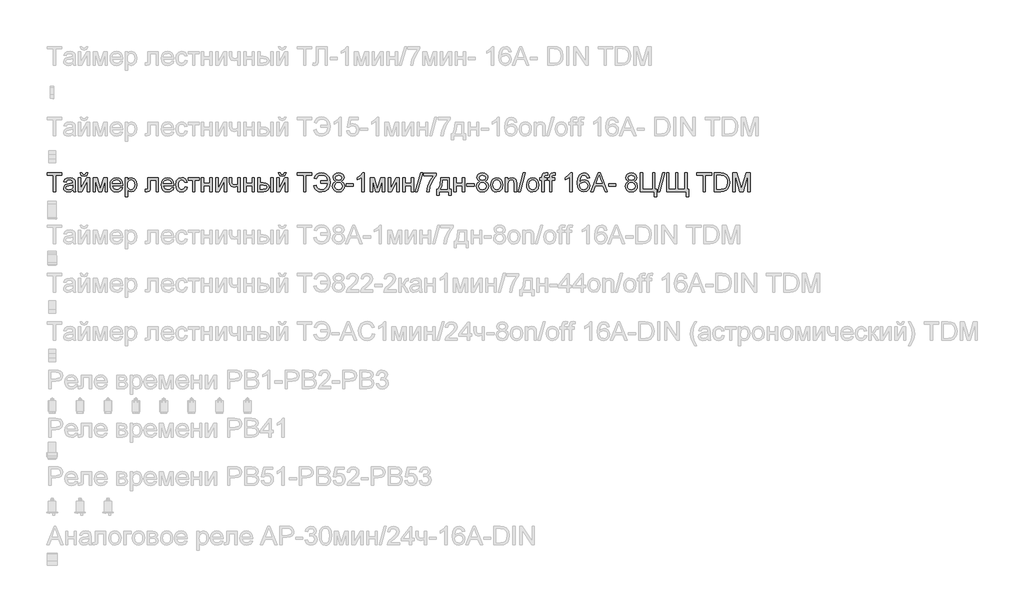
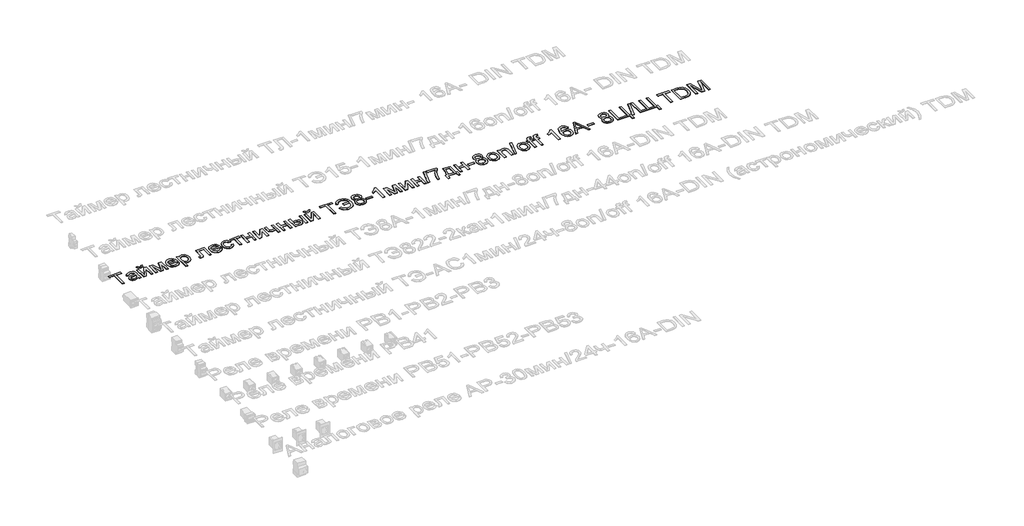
# One storey, part 29 of 34: 1 proxy.
"""IFC4 building model written with IfcOpenShell, lengths in millimetres."""

from ifc_helpers import new_model, si_unit, frame, origin, place, context, project, spatial, polyline, outline, extrude, element, save

model = new_model("IFC4")

# Units and contexts
model_context = context("Model", 3, world=origin())
ifc_project = project(units=[si_unit("LENGTHUNIT", "METRE", prefix="MILLI")], contexts=[model_context])

# Site, building, storey
site = spatial("IfcSite", under=ifc_project)
building = spatial("IfcBuilding", under=site)
storey = spatial("IfcBuildingStorey", under=building, Name="Этаж 01", Elevation=0.0)

# Proxy
placement = place(None, origin())
element("IfcBuildingElementProxy", 1, Name="Надпись на модели 1", ObjectType="Надпись на модели 1", at=placement, inside=storey, context=model_context, shape_type="SweptSolid", body=[
    extrude(outline(polyline([(-19013.8985135, 17856.235284), (-19013.8985135, 17944.1345554), (-19046.8607403, 17944.1345554), (-19046.8607403, 17956.6915941), (-18968.379248, 17956.6915941), (-18968.379248, 17944.1345554), (-19001.3414748, 17944.1345554), (-19001.3414748, 17856.235284), (-19013.8985135, 17856.235284)])), frame((0.0, 0.0, 40.0), z_axis=(0.0, 0.0, 1.0), x_axis=(1.0, 0.0, 0.0)), (0.0, 0.0, 1.0), 2.0),
    extrude(outline(polyline([(-18908.7333139, 17865.6530631), (-18920.9102079, 17857.1427262), (-18934.3624262, 17854.6656541), (-18944.8562601, 17856.1555762), (-18952.5971104, 17860.6253425), (-18957.3703793, 17867.4127653), (-18958.9614689, 17875.8556571), (-18956.5579732, 17885.7884709), (-18950.2426656, 17892.998958), (-18941.450286, 17897.1192364), (-18930.5855044, 17899.0076973), (-18908.8068903, 17903.3241794), (-18908.7333139, 17906.1200825), (-18912.1914046, 17915.3907088), (-18926.0728186, 17919.0204778), (-18938.7770101, 17916.6047194), (-18944.8348003, 17908.0330689), (-18957.3918391, 17909.6026988), (-18951.9594483, 17921.8654319), (-18941.0210903, 17929.0513936), (-18924.4541378, 17931.5775166), (-18909.2360859, 17929.3456992), (-18900.63991, 17923.7416301), (-18896.7894117, 17915.2190306), (-18896.1762751, 17904.2316216), (-18896.1762751, 17888.6088996), (-18895.538613, 17866.7934973), (-18893.0370154, 17856.235284), (-18905.5940542, 17856.235284), (-18908.7333139, 17865.6530631)]), holes=[polyline([(-18908.7333139, 17890.7671406), (-18928.9913491, 17886.9166424), (-18939.794817, 17884.8810287), (-18944.6876475, 17881.5700907), (-18946.4044302, 17876.7385739), (-18942.6642965, 17869.9450197), (-18931.6891504, 17867.2226929), (-18918.9849588, 17870.2270625), (-18910.793453, 17877.4988633), (-18908.8068903, 17887.210948), (-18908.7333139, 17890.7671406)])]), frame((0.0, 0.0, 40.0), z_axis=(0.0, 0.0, 1.0), x_axis=(1.0, 0.0, 0.0)), (0.0, 0.0, 1.0), 2.0),
    extrude(outline(polyline([(-18878.9103468, 17930.0078868), (-18866.353308, 17930.0078868), (-18866.353308, 17873.746467), (-18835.5002713, 17930.0078868), (-18819.2644126, 17930.0078868), (-18819.2644126, 17856.235284), (-18831.8214514, 17856.235284), (-18831.8214514, 17912.1533473), (-18862.4782843, 17856.235284), (-18878.9103468, 17856.235284), (-18878.9103468, 17930.0078868)])), frame((0.0, 0.0, 40.0), z_axis=(0.0, 0.0, 1.0), x_axis=(1.0, 0.0, 0.0)), (0.0, 0.0, 1.0), 2.0),
    extrude(outline(polyline([(-18838.0999708, 17956.6915941), (-18828.6821917, 17956.6915941), (-18834.7767701, 17942.7243411), (-18848.3025648, 17937.856036), (-18862.9442682, 17942.6875529), (-18869.4925677, 17956.6915941), (-18860.0747886, 17956.6915941), (-18856.5431215, 17949.6159971), (-18849.4307362, 17947.2738151), (-18841.6316379, 17949.5424207), (-18838.0999708, 17956.6915941)])), frame((0.0, 0.0, 40.0), z_axis=(0.0, 0.0, 1.0), x_axis=(1.0, 0.0, 0.0)), (0.0, 0.0, 1.0), 2.0),
    extrude(outline(polyline([(-18800.4288545, 17930.0078868), (-18778.8219186, 17930.0078868), (-18762.169127, 17870.9505638), (-18744.2164856, 17930.0078868), (-18723.516992, 17930.0078868), (-18723.516992, 17856.235284), (-18736.0740308, 17856.235284), (-18736.0740308, 17915.6359635), (-18754.124774, 17856.235284), (-18770.6058874, 17856.235284), (-18787.8718157, 17918.4809176), (-18787.8718157, 17856.235284), (-18800.4288545, 17856.235284), (-18800.4288545, 17930.0078868)])), frame((0.0, 0.0, 40.0), z_axis=(0.0, 0.0, 1.0), x_axis=(1.0, 0.0, 0.0)), (0.0, 0.0, 1.0), 2.0),
    extrude(outline(polyline([(-18653.0308017, 17878.2101018), (-18640.7190176, 17876.640472), (-18645.1550614, 17867.3637143), (-18652.2337241, 17860.4291387), (-18661.7955903, 17856.1065253), (-18673.6812444, 17854.6656541), (-18688.4149183, 17857.1519233), (-18699.7518151, 17864.6107308), (-18706.9806963, 17876.5576985), (-18709.3903234, 17892.5084487), (-18706.9561709, 17908.9956935), (-18699.6537133, 17921.3258717), (-18688.4701006, 17929.0146054), (-18674.3924829, 17931.5775166), (-18660.753258, 17929.0207367), (-18649.8547538, 17921.3503971), (-18642.7086461, 17909.0447444), (-18640.3266102, 17892.5820251), (-18640.4001866, 17889.1975108), (-18696.8332846, 17889.1975108), (-18694.6597152, 17879.7981258), (-18689.6105348, 17872.8880756), (-18682.3234056, 17868.6390386), (-18673.4359897, 17867.2226929), (-18661.1242056, 17869.8469178), (-18653.0308017, 17878.2101018)]), holes=[polyline([(-18696.8332846, 17901.7545495), (-18652.8836489, 17901.7545495), (-18657.9113695, 17913.1343659), (-18665.2322212, 17917.5489499), (-18674.4415339, 17919.0204778), (-18689.9048404, 17914.323851), (-18694.7700798, 17908.8332123), (-18696.8332846, 17901.7545495)])]), frame((0.0, 0.0, 40.0), z_axis=(0.0, 0.0, 1.0), x_axis=(1.0, 0.0, 0.0)), (0.0, 0.0, 1.0), 2.0),
    extrude(outline(polyline([(-18627.7695714, 17827.9819468), (-18627.7695714, 17930.0078868), (-18615.2125326, 17930.0078868), (-18615.2125326, 17917.6961027), (-18606.5305175, 17928.1071631), (-18594.8073446, 17931.5775166), (-18578.890317, 17926.7214743), (-18568.4915192, 17913.036264), (-18564.9843776, 17893.6856711), (-18568.9452404, 17873.3417968), (-18580.4476841, 17859.4849083), (-18596.3279235, 17854.6656541), (-18607.2540188, 17857.890753), (-18615.2125326, 17866.0454705), (-18615.2125326, 17827.9819468), (-18627.7695714, 17827.9819468)]), holes=[polyline([(-18615.2125326, 17892.5329742), (-18613.8544349, 17881.2757851), (-18609.7801418, 17873.4031104), (-18603.7683369, 17868.7677973), (-18596.5977037, 17867.2226929), (-18589.3105745, 17868.8229796), (-18583.1454854, 17873.6238396), (-18578.9424336, 17881.7846886), (-18577.5414163, 17893.4649419), (-18578.9087111, 17904.6608173), (-18583.0105953, 17912.6438566), (-18589.0132032, 17917.4263225), (-18596.0826689, 17919.0204778), (-18603.1797257, 17917.325155), (-18609.4122598, 17912.2391864), (-18613.7624644, 17903.9219876), (-18615.2125326, 17892.5329742)])]), frame((0.0, 0.0, 40.0), z_axis=(0.0, 0.0, 1.0), x_axis=(1.0, 0.0, 0.0)), (0.0, 0.0, 1.0), 2.0),
    extrude(outline(polyline([(-18505.3384434, 17930.0078868), (-18448.8317689, 17930.0078868), (-18448.8317689, 17856.3088604), (-18461.3888077, 17856.3088604), (-18461.3888077, 17917.450848), (-18492.7814046, 17917.450848), (-18492.7814046, 17882.2568038), (-18493.6275332, 17866.0209451), (-18498.2751091, 17859.1660772), (-18509.262518, 17856.235284), (-18519.465112, 17856.8729461), (-18519.465112, 17868.7923228), (-18513.8487802, 17868.7923228), (-18508.1711348, 17869.564875), (-18505.9025291, 17872.0174216), (-18505.3384434, 17882.9680423), (-18505.3384434, 17930.0078868)])), frame((0.0, 0.0, 40.0), z_axis=(0.0, 0.0, 1.0), x_axis=(1.0, 0.0, 0.0)), (0.0, 0.0, 1.0), 2.0),
    extrude(outline(polyline([(-18378.3455787, 17878.2101018), (-18366.0337946, 17876.640472), (-18370.4698383, 17867.3637143), (-18377.548501, 17860.4291387), (-18387.1103672, 17856.1065253), (-18398.9960213, 17854.6656541), (-18413.7296952, 17857.1519233), (-18425.0665921, 17864.6107308), (-18432.2954733, 17876.5576985), (-18434.7051003, 17892.5084487), (-18432.2709478, 17908.9956935), (-18424.9684902, 17921.3258717), (-18413.7848775, 17929.0146054), (-18399.7072599, 17931.5775166), (-18386.0680349, 17929.0207367), (-18375.1695308, 17921.3503971), (-18368.023423, 17909.0447444), (-18365.6413871, 17892.5820251), (-18365.7149635, 17889.1975108), (-18422.1480616, 17889.1975108), (-18419.9744921, 17879.7981258), (-18414.9253117, 17872.8880756), (-18407.6381825, 17868.6390386), (-18398.7507667, 17867.2226929), (-18386.4389826, 17869.8469178), (-18378.3455787, 17878.2101018)]), holes=[polyline([(-18422.1480616, 17901.7545495), (-18378.1984259, 17901.7545495), (-18383.2261465, 17913.1343659), (-18390.5469982, 17917.5489499), (-18399.7563108, 17919.0204778), (-18415.2196173, 17914.323851), (-18420.0848567, 17908.8332123), (-18422.1480616, 17901.7545495)])]), frame((0.0, 0.0, 40.0), z_axis=(0.0, 0.0, 1.0), x_axis=(1.0, 0.0, 0.0)), (0.0, 0.0, 1.0), 2.0),
    extrude(outline(polyline([(-18305.995453, 17882.9189914), (-18293.4384142, 17881.3493615), (-18296.9394245, 17870.1810773), (-18303.5183809, 17861.7412512), (-18312.5560152, 17856.4345534), (-18323.4330595, 17854.6656541), (-18336.7902416, 17857.1335292), (-18347.2350246, 17864.5371544), (-18353.9764622, 17876.5515672), (-18356.223608, 17892.8518052), (-18352.3853725, 17913.7107144), (-18340.6867251, 17927.1138817), (-18323.6047378, 17931.5775166), (-18312.9944079, 17930.044675), (-18304.5116622, 17925.44615), (-18298.4262809, 17918.0271964), (-18295.008044, 17908.0330689), (-18307.5650828, 17906.4634391), (-18313.3898811, 17915.8689554), (-18323.5066359, 17919.0204778), (-18331.6214996, 17917.4692421), (-18338.0625002, 17912.8155349), (-18342.265552, 17904.8079701), (-18343.6665693, 17893.1951618), (-18342.2962088, 17881.4260036), (-18338.1851275, 17873.3908477), (-18331.8606229, 17868.7647316), (-18323.8499925, 17867.2226929), (-18312.0164549, 17871.0731911), (-18305.995453, 17882.9189914)])), frame((0.0, 0.0, 40.0), z_axis=(0.0, 0.0, 1.0), x_axis=(1.0, 0.0, 0.0)), (0.0, 0.0, 1.0), 2.0),
    extrude(outline(polyline([(-18288.7295246, 17930.0078868), (-18229.0835905, 17930.0078868), (-18229.0835905, 17917.450848), (-18252.6280382, 17917.450848), (-18252.6280382, 17856.235284), (-18265.185077, 17856.235284), (-18265.185077, 17917.450848), (-18288.7295246, 17917.450848), (-18288.7295246, 17930.0078868)])), frame((0.0, 0.0, 40.0), z_axis=(0.0, 0.0, 1.0), x_axis=(1.0, 0.0, 0.0)), (0.0, 0.0, 1.0), 2.0),
    extrude(outline(polyline([(-18218.0961816, 17930.0078868), (-18205.5391428, 17930.0078868), (-18205.5391428, 17901.7545495), (-18172.576916, 17901.7545495), (-18172.576916, 17930.0078868), (-18160.0198773, 17930.0078868), (-18160.0198773, 17856.235284), (-18172.576916, 17856.235284), (-18172.576916, 17889.1975108), (-18205.5391428, 17889.1975108), (-18205.5391428, 17856.235284), (-18218.0961816, 17856.235284), (-18218.0961816, 17930.0078868)])), frame((0.0, 0.0, 40.0), z_axis=(0.0, 0.0, 1.0), x_axis=(1.0, 0.0, 0.0)), (0.0, 0.0, 1.0), 2.0),
    extrude(outline(polyline([(-18141.1843191, 17930.0078868), (-18128.6272803, 17930.0078868), (-18128.6272803, 17873.746467), (-18097.7742437, 17930.0078868), (-18081.538385, 17930.0078868), (-18081.538385, 17856.235284), (-18094.0954237, 17856.235284), (-18094.0954237, 17912.1533473), (-18124.7522567, 17856.235284), (-18141.1843191, 17856.235284), (-18141.1843191, 17930.0078868)])), frame((0.0, 0.0, 40.0), z_axis=(0.0, 0.0, 1.0), x_axis=(1.0, 0.0, 0.0)), (0.0, 0.0, 1.0), 2.0),
    extrude(outline(polyline([(-18067.4117163, 17930.0078868), (-18054.8546776, 17930.0078868), (-18054.8546776, 17915.8566927), (-18053.8368707, 17902.5884154), (-18048.9440402, 17895.4024537), (-18039.2319555, 17892.3367705), (-18021.8924508, 17896.1382177), (-18021.8924508, 17930.0078868), (-18009.335412, 17930.0078868), (-18009.335412, 17856.235284), (-18021.8924508, 17856.235284), (-18021.8924508, 17884.0962138), (-18042.5919444, 17879.7797317), (-18056.8289776, 17884.2801548), (-18065.2044244, 17895.3043519), (-18067.4117163, 17909.6517497), (-18067.4117163, 17930.0078868)])), frame((0.0, 0.0, 40.0), z_axis=(0.0, 0.0, 1.0), x_axis=(1.0, 0.0, 0.0)), (0.0, 0.0, 1.0), 2.0),
    extrude(outline(polyline([(-17990.4998539, 17930.0078868), (-17977.9428151, 17930.0078868), (-17977.9428151, 17901.7545495), (-17944.9805884, 17901.7545495), (-17944.9805884, 17930.0078868), (-17932.4235496, 17930.0078868), (-17932.4235496, 17856.235284), (-17944.9805884, 17856.235284), (-17944.9805884, 17889.1975108), (-17977.9428151, 17889.1975108), (-17977.9428151, 17856.235284), (-17990.4998539, 17856.235284), (-17990.4998539, 17930.0078868)])), frame((0.0, 0.0, 40.0), z_axis=(0.0, 0.0, 1.0), x_axis=(1.0, 0.0, 0.0)), (0.0, 0.0, 1.0), 2.0),
    extrude(outline(polyline([(-17844.5242782, 17930.0078868), (-17831.9672394, 17930.0078868), (-17831.9672394, 17856.235284), (-17844.5242782, 17856.235284), (-17844.5242782, 17930.0078868)])), frame((0.0, 0.0, 40.0), z_axis=(0.0, 0.0, 1.0), x_axis=(1.0, 0.0, 0.0)), (0.0, 0.0, 1.0), 2.0),
    extrude(outline(polyline([(-17913.5879914, 17930.0078868), (-17901.0309527, 17930.0078868), (-17901.0309527, 17903.3241794), (-17885.5063325, 17903.3241794), (-17872.0878367, 17901.7514838), (-17862.1458258, 17897.0333973), (-17855.9929994, 17889.5500643), (-17853.9420573, 17879.6816298), (-17855.6619056, 17870.6961121), (-17860.8214506, 17863.1146773), (-17869.7579174, 17857.9551323), (-17882.8085312, 17856.235284), (-17913.5879914, 17856.235284), (-17913.5879914, 17930.0078868)]), holes=[polyline([(-17901.0309527, 17868.7923228), (-17888.1305574, 17868.7923228), (-17871.4777657, 17871.4288104), (-17866.499096, 17879.6571044), (-17870.1901787, 17887.3826263), (-17886.4873511, 17890.7671406), (-17901.0309527, 17890.7671406), (-17901.0309527, 17868.7923228)])]), frame((0.0, 0.0, 40.0), z_axis=(0.0, 0.0, 1.0), x_axis=(1.0, 0.0, 0.0)), (0.0, 0.0, 1.0), 2.0),
    extrude(outline(polyline([(-17813.1316813, 17930.0078868), (-17800.5746425, 17930.0078868), (-17800.5746425, 17873.746467), (-17769.7216059, 17930.0078868), (-17753.4857471, 17930.0078868), (-17753.4857471, 17856.235284), (-17766.0427859, 17856.235284), (-17766.0427859, 17912.1533473), (-17796.6996188, 17856.235284), (-17813.1316813, 17856.235284), (-17813.1316813, 17930.0078868)])), frame((0.0, 0.0, 40.0), z_axis=(0.0, 0.0, 1.0), x_axis=(1.0, 0.0, 0.0)), (0.0, 0.0, 1.0), 2.0),
    extrude(outline(polyline([(-17772.3213053, 17956.6915941), (-17762.9035262, 17956.6915941), (-17768.9981046, 17942.7243411), (-17782.5238993, 17937.856036), (-17797.1656027, 17942.6875529), (-17803.7139022, 17956.6915941), (-17794.2961231, 17956.6915941), (-17790.764456, 17949.6159971), (-17783.6520707, 17947.2738151), (-17775.8529724, 17949.5424207), (-17772.3213053, 17956.6915941)])), frame((0.0, 0.0, 40.0), z_axis=(0.0, 0.0, 1.0), x_axis=(1.0, 0.0, 0.0)), (0.0, 0.0, 1.0), 2.0),
    extrude(outline(polyline([(-17668.7257354, 17856.235284), (-17668.7257354, 17944.1345554), (-17701.6879622, 17944.1345554), (-17701.6879622, 17956.6915941), (-17623.2064699, 17956.6915941), (-17623.2064699, 17944.1345554), (-17656.1686967, 17944.1345554), (-17656.1686967, 17856.235284), (-17668.7257354, 17856.235284)])), frame((0.0, 0.0, 40.0), z_axis=(0.0, 0.0, 1.0), x_axis=(1.0, 0.0, 0.0)), (0.0, 0.0, 1.0), 2.0),
    extrude(outline(polyline([(-17576.1175745, 17914.3115883), (-17538.4464582, 17914.3115883), (-17541.2117045, 17927.2641002), (-17547.8397118, 17937.2306366), (-17558.0300431, 17943.5857981), (-17571.4822614, 17945.7041852), (-17589.6985515, 17940.6028882), (-17599.6620222, 17925.2989972), (-17612.219061, 17928.4382569), (-17606.8479839, 17940.933982), (-17598.0923924, 17950.3640238), (-17586.3753508, 17956.2869239), (-17572.1199235, 17958.261224), (-17558.4285819, 17956.4494052), (-17546.7851168, 17951.0139487), (-17537.5359503, 17942.7611293), (-17531.0275046, 17932.4972216), (-17525.8894194, 17907.5670851), (-17528.2132074, 17886.9748904), (-17536.7051501, 17869.9327569), (-17551.3161967, 17858.4824298), (-17571.9972962, 17854.6656541), (-17587.0252757, 17856.7257933), (-17598.9998346, 17862.9062108), (-17607.920973, 17873.2069067), (-17613.7886908, 17887.6278809), (-17601.2316521, 17890.7671406), (-17596.9887464, 17880.4664447), (-17590.4649723, 17873.1088048), (-17581.6603299, 17868.6942209), (-17570.5748191, 17867.2226929), (-17558.0545686, 17869.5342181), (-17548.0113901, 17876.4687937), (-17541.2178359, 17887.4132831), (-17538.4464582, 17901.7545495), (-17576.1175745, 17901.7545495), (-17576.1175745, 17914.3115883)])), frame((0.0, 0.0, 40.0), z_axis=(0.0, 0.0, 1.0), x_axis=(1.0, 0.0, 0.0)), (0.0, 0.0, 1.0), 2.0),
    extrude(outline(polyline([(-17495.0363828, 17911.5647361), (-17506.4775128, 17919.3638344), (-17510.193121, 17931.5039402), (-17508.16977, 17941.3202581), (-17502.0997171, 17949.4320561), (-17492.6635439, 17954.8767096), (-17480.5418322, 17956.6915941), (-17468.346544, 17954.8337901), (-17458.7877435, 17949.2603778), (-17452.607326, 17941.0198211), (-17450.5471868, 17931.1605837), (-17454.2137441, 17919.3270462), (-17465.336043, 17911.5647361), (-17451.9819266, 17901.7177613), (-17447.4079271, 17885.4696399), (-17449.6765328, 17873.4644241), (-17456.4823497, 17863.543873), (-17466.991512, 17856.8852089), (-17480.3701539, 17854.6656541), (-17493.7487958, 17856.8944059), (-17504.2579581, 17863.5806612), (-17511.063775, 17873.5962485), (-17513.3323807, 17885.8129964), (-17508.5744402, 17902.4412626), (-17495.0363828, 17911.5647361)]), holes=[polyline([(-17497.6360822, 17931.1360582), (-17493.1847101, 17921.2768207), (-17480.2230011, 17917.450848), (-17467.5188095, 17921.2522953), (-17463.1042256, 17930.5719725), (-17467.6659623, 17940.2227435), (-17480.3701539, 17944.1345554), (-17493.1111337, 17940.3085826), (-17497.6360822, 17931.1360582)]), polyline([(-17500.7753419, 17886.2544548), (-17498.6784145, 17876.7998875), (-17491.259461, 17869.7242905), (-17480.272052, 17867.2226929), (-17471.724927, 17868.537871), (-17465.3115176, 17872.4834054), (-17459.9649659, 17885.8620473), (-17465.4831958, 17899.4982066), (-17472.0437581, 17903.5449086), (-17480.688985, 17904.8938092), (-17489.1165483, 17903.5633027), (-17495.4655784, 17899.571783), (-17500.7753419, 17886.2544548)])]), frame((0.0, 0.0, 40.0), z_axis=(0.0, 0.0, 1.0), x_axis=(1.0, 0.0, 0.0)), (0.0, 0.0, 1.0), 2.0),
    extrude(outline(polyline([(-17439.5597779, 17886.0582511), (-17439.5597779, 17898.6152898), (-17400.3190318, 17898.6152898), (-17400.3190318, 17886.0582511), (-17439.5597779, 17886.0582511)])), frame((0.0, 0.0, 40.0), z_axis=(0.0, 0.0, 1.0), x_axis=(1.0, 0.0, 0.0)), (0.0, 0.0, 1.0), 2.0),
    extrude(outline(polyline([(-17342.2427275, 17856.235284), (-17354.7997662, 17856.235284), (-17354.7997662, 17934.5205726), (-17366.6946174, 17926.0470239), (-17379.9138438, 17919.7071909), (-17379.9138438, 17931.5775166), (-17361.5074813, 17943.325215), (-17350.3361314, 17956.6915941), (-17342.2427275, 17956.6915941), (-17342.2427275, 17856.235284)])), frame((0.0, 0.0, 40.0), z_axis=(0.0, 0.0, 1.0), x_axis=(1.0, 0.0, 0.0)), (0.0, 0.0, 1.0), 2.0),
    extrude(outline(polyline([(-17309.2805007, 17930.0078868), (-17287.6735648, 17930.0078868), (-17271.0207732, 17870.9505638), (-17253.0681318, 17930.0078868), (-17232.3686382, 17930.0078868), (-17232.3686382, 17856.235284), (-17244.925677, 17856.235284), (-17244.925677, 17915.6359635), (-17262.9764202, 17856.235284), (-17279.4575336, 17856.235284), (-17296.7234619, 17918.4809176), (-17296.7234619, 17856.235284), (-17309.2805007, 17856.235284), (-17309.2805007, 17930.0078868)])), frame((0.0, 0.0, 40.0), z_axis=(0.0, 0.0, 1.0), x_axis=(1.0, 0.0, 0.0)), (0.0, 0.0, 1.0), 2.0),
    extrude(outline(polyline([(-17213.5330801, 17930.0078868), (-17200.9760413, 17930.0078868), (-17200.9760413, 17873.746467), (-17170.1230046, 17930.0078868), (-17153.8871459, 17930.0078868), (-17153.8871459, 17856.235284), (-17166.4441847, 17856.235284), (-17166.4441847, 17912.1533473), (-17197.1010176, 17856.235284), (-17213.5330801, 17856.235284), (-17213.5330801, 17930.0078868)])), frame((0.0, 0.0, 40.0), z_axis=(0.0, 0.0, 1.0), x_axis=(1.0, 0.0, 0.0)), (0.0, 0.0, 1.0), 2.0),
    extrude(outline(polyline([(-17135.0515878, 17930.0078868), (-17122.494549, 17930.0078868), (-17122.494549, 17901.7545495), (-17089.5323222, 17901.7545495), (-17089.5323222, 17930.0078868), (-17076.9752835, 17930.0078868), (-17076.9752835, 17856.235284), (-17089.5323222, 17856.235284), (-17089.5323222, 17889.1975108), (-17122.494549, 17889.1975108), (-17122.494549, 17856.235284), (-17135.0515878, 17856.235284), (-17135.0515878, 17930.0078868)])), frame((0.0, 0.0, 40.0), z_axis=(0.0, 0.0, 1.0), x_axis=(1.0, 0.0, 0.0)), (0.0, 0.0, 1.0), 2.0),
    extrude(outline(polyline([(-17067.5575044, 17856.235284), (-17039.3041672, 17956.6915941), (-17027.9734017, 17956.6915941), (-17056.2267389, 17856.235284), (-17067.5575044, 17856.235284)])), frame((0.0, 0.0, 40.0), z_axis=(0.0, 0.0, 1.0), x_axis=(1.0, 0.0, 0.0)), (0.0, 0.0, 1.0), 2.0),
    extrude(outline(polyline([(-17022.0382389, 17942.5649255), (-17022.0382389, 17955.1219643), (-16956.1137853, 17955.1219643), (-16956.1137853, 17944.9684212), (-16974.8144534, 17917.9536201), (-16989.125063, 17883.532128), (-16993.7849016, 17856.235284), (-17006.3419404, 17856.235284), (-17001.351008, 17884.5621976), (-16987.653535, 17916.5801939), (-16968.6708241, 17942.5649255), (-17022.0382389, 17942.5649255)])), frame((0.0, 0.0, 40.0), z_axis=(0.0, 0.0, 1.0), x_axis=(1.0, 0.0, 0.0)), (0.0, 0.0, 1.0), 2.0),
    extrude(outline(polyline([(-16930.9997078, 17930.0078868), (-16883.9108124, 17930.0078868), (-16883.9108124, 17868.7923228), (-16874.4930333, 17868.7923228), (-16874.4930333, 17835.830096), (-16887.0500721, 17835.830096), (-16887.0500721, 17856.235284), (-16938.847857, 17856.235284), (-16938.847857, 17835.830096), (-16951.4048958, 17835.830096), (-16951.4048958, 17868.7923228), (-16943.5567466, 17868.7923228), (-16933.8569246, 17892.7414406), (-16930.9997078, 17930.0078868)]), holes=[polyline([(-16920.0122989, 17917.450848), (-16922.9553548, 17888.8418915), (-16929.4300779, 17868.7923228), (-16896.4678512, 17868.7923228), (-16896.4678512, 17917.450848), (-16920.0122989, 17917.450848)])]), frame((0.0, 0.0, 40.0), z_axis=(0.0, 0.0, 1.0), x_axis=(1.0, 0.0, 0.0)), (0.0, 0.0, 1.0), 2.0),
    extrude(outline(polyline([(-16860.3663647, 17930.0078868), (-16847.8093259, 17930.0078868), (-16847.8093259, 17901.7545495), (-16814.8470992, 17901.7545495), (-16814.8470992, 17930.0078868), (-16802.2900604, 17930.0078868), (-16802.2900604, 17856.235284), (-16814.8470992, 17856.235284), (-16814.8470992, 17889.1975108), (-16847.8093259, 17889.1975108), (-16847.8093259, 17856.235284), (-16860.3663647, 17856.235284), (-16860.3663647, 17930.0078868)])), frame((0.0, 0.0, 40.0), z_axis=(0.0, 0.0, 1.0), x_axis=(1.0, 0.0, 0.0)), (0.0, 0.0, 1.0), 2.0),
    extrude(outline(polyline([(-16789.7330216, 17886.0582511), (-16789.7330216, 17898.6152898), (-16750.4922755, 17898.6152898), (-16750.4922755, 17886.0582511), (-16789.7330216, 17886.0582511)])), frame((0.0, 0.0, 40.0), z_axis=(0.0, 0.0, 1.0), x_axis=(1.0, 0.0, 0.0)), (0.0, 0.0, 1.0), 2.0),
    extrude(outline(polyline([(-16721.2088687, 17911.5647361), (-16732.6499987, 17919.3638344), (-16736.3656069, 17931.5039402), (-16734.3422559, 17941.3202581), (-16728.272203, 17949.4320561), (-16718.8360298, 17954.8767096), (-16706.7143181, 17956.6915941), (-16694.5190299, 17954.8337901), (-16684.9602294, 17949.2603778), (-16678.7798119, 17941.0198211), (-16676.7196727, 17931.1605837), (-16680.3862299, 17919.3270462), (-16691.5085289, 17911.5647361), (-16678.1544125, 17901.7177613), (-16673.580413, 17885.4696399), (-16675.8490187, 17873.4644241), (-16682.6548356, 17863.543873), (-16693.1639979, 17856.8852089), (-16706.5426398, 17854.6656541), (-16719.9212817, 17856.8944059), (-16730.430444, 17863.5806612), (-16737.2362609, 17873.5962485), (-16739.5048666, 17885.8129964), (-16734.7469261, 17902.4412626), (-16721.2088687, 17911.5647361)]), holes=[polyline([(-16723.8085681, 17931.1360582), (-16719.357196, 17921.2768207), (-16706.395487, 17917.450848), (-16693.6912954, 17921.2522953), (-16689.2767115, 17930.5719725), (-16693.8384482, 17940.2227435), (-16706.5426398, 17944.1345554), (-16719.2836196, 17940.3085826), (-16723.8085681, 17931.1360582)]), polyline([(-16726.9478278, 17886.2544548), (-16724.8509004, 17876.7998875), (-16717.4319468, 17869.7242905), (-16706.4445379, 17867.2226929), (-16697.8974129, 17868.537871), (-16691.4840035, 17872.4834054), (-16686.1374518, 17885.8620473), (-16691.6556817, 17899.4982066), (-16698.216244, 17903.5449086), (-16706.8614709, 17904.8938092), (-16715.2890342, 17903.5633027), (-16721.6380643, 17899.571783), (-16726.9478278, 17886.2544548)])]), frame((0.0, 0.0, 40.0), z_axis=(0.0, 0.0, 1.0), x_axis=(1.0, 0.0, 0.0)), (0.0, 0.0, 1.0), 2.0),
    extrude(outline(polyline([(-16662.5930041, 17893.1215854), (-16659.8768087, 17910.9086798), (-16651.7282225, 17923.4105363), (-16641.6605186, 17929.5357715), (-16629.6062519, 17931.5775166), (-16616.4146167, 17929.0912475), (-16605.8778632, 17921.63244), (-16598.9708787, 17909.7897054), (-16596.6685506, 17894.151655), (-16600.739778, 17871.8089551), (-16612.597841, 17859.1660772), (-16629.6062519, 17854.6656541), (-16642.9573026, 17857.1427262), (-16653.4817934, 17864.5739426), (-16660.3152014, 17876.6649975), (-16662.5930041, 17893.1215854)]), holes=[polyline([(-16650.0359653, 17893.1461108), (-16648.5828315, 17881.7816229), (-16644.2234298, 17873.6851533), (-16637.6628676, 17868.838308), (-16629.6062519, 17867.2226929), (-16621.5864244, 17868.8475051), (-16615.0381249, 17873.7219415), (-16610.6787232, 17881.92571), (-16609.2255893, 17893.5385183), (-16610.6879203, 17904.5719125), (-16615.0749131, 17912.5580175), (-16621.6324096, 17917.4048627), (-16629.6062519, 17919.0204778), (-16637.6628676, 17917.4109941), (-16644.2234298, 17912.5825429), (-16648.5828315, 17904.5044674), (-16650.0359653, 17893.1461108)])]), frame((0.0, 0.0, 40.0), z_axis=(0.0, 0.0, 1.0), x_axis=(1.0, 0.0, 0.0)), (0.0, 0.0, 1.0), 2.0),
    extrude(outline(polyline([(-16582.541882, 17856.235284), (-16582.541882, 17930.0078868), (-16569.9848432, 17930.0078868), (-16569.9848432, 17919.7071909), (-16560.3831231, 17928.6099352), (-16547.2742613, 17931.5775166), (-16535.4161984, 17929.1862836), (-16527.3227945, 17922.9077643), (-16523.5581354, 17913.6739262), (-16522.8959478, 17901.5338203), (-16522.8959478, 17856.235284), (-16535.4529866, 17856.235284), (-16535.4529866, 17899.8415632), (-16536.8999891, 17910.9515994), (-16542.0135488, 17916.8254486), (-16550.6342502, 17919.0204778), (-16564.2581468, 17914.0908591), (-16568.5531691, 17906.947817), (-16569.9848432, 17895.3779283), (-16569.9848432, 17856.235284), (-16582.541882, 17856.235284)])), frame((0.0, 0.0, 40.0), z_axis=(0.0, 0.0, 1.0), x_axis=(1.0, 0.0, 0.0)), (0.0, 0.0, 1.0), 2.0),
    extrude(outline(polyline([(-16515.0477986, 17856.235284), (-16486.7944613, 17956.6915941), (-16475.4636959, 17956.6915941), (-16503.7170331, 17856.235284), (-16515.0477986, 17856.235284)])), frame((0.0, 0.0, 40.0), z_axis=(0.0, 0.0, 1.0), x_axis=(1.0, 0.0, 0.0)), (0.0, 0.0, 1.0), 2.0),
    extrude(outline(polyline([(-16469.528533, 17893.1215854), (-16466.8123376, 17910.9086798), (-16458.6637514, 17923.4105363), (-16448.5960475, 17929.5357715), (-16436.5417808, 17931.5775166), (-16423.3501456, 17929.0912475), (-16412.8133921, 17921.63244), (-16405.9064076, 17909.7897054), (-16403.6040795, 17894.151655), (-16407.6753069, 17871.8089551), (-16419.5333699, 17859.1660772), (-16436.5417808, 17854.6656541), (-16449.8928315, 17857.1427262), (-16460.4173223, 17864.5739426), (-16467.2507303, 17876.6649975), (-16469.528533, 17893.1215854)]), holes=[polyline([(-16456.9714943, 17893.1461108), (-16455.5183604, 17881.7816229), (-16451.1589587, 17873.6851533), (-16444.5983965, 17868.838308), (-16436.5417808, 17867.2226929), (-16428.5219533, 17868.8475051), (-16421.9736538, 17873.7219415), (-16417.6142521, 17881.92571), (-16416.1611183, 17893.5385183), (-16417.6234492, 17904.5719125), (-16422.010442, 17912.5580175), (-16428.5679386, 17917.4048627), (-16436.5417808, 17919.0204778), (-16444.5983965, 17917.4109941), (-16451.1589587, 17912.5825429), (-16455.5183604, 17904.5044674), (-16456.9714943, 17893.1461108)])]), frame((0.0, 0.0, 40.0), z_axis=(0.0, 0.0, 1.0), x_axis=(1.0, 0.0, 0.0)), (0.0, 0.0, 1.0), 2.0),
    extrude(outline(polyline([(-16345.5277752, 17856.235284), (-16345.5277752, 17917.450848), (-16356.5151841, 17917.450848), (-16356.5151841, 17930.0078868), (-16345.5277752, 17930.0078868), (-16345.5277752, 17937.4391031), (-16344.2034, 17947.9114772), (-16337.7777278, 17955.3917444), (-16325.1225872, 17958.261224), (-16313.6691944, 17956.8877979), (-16315.5086044, 17945.115574), (-16322.743617, 17945.7041852), (-16330.6530799, 17943.6195206), (-16332.9707364, 17935.8449477), (-16332.9707364, 17930.0078868), (-16318.8440678, 17930.0078868), (-16318.8440678, 17917.450848), (-16332.9707364, 17917.450848), (-16332.9707364, 17856.235284), (-16345.5277752, 17856.235284)])), frame((0.0, 0.0, 40.0), z_axis=(0.0, 0.0, 1.0), x_axis=(1.0, 0.0, 0.0)), (0.0, 0.0, 1.0), 2.0),
    extrude(outline(polyline([(-16386.3381512, 17856.235284), (-16386.3381512, 17917.450848), (-16397.3255601, 17917.450848), (-16397.3255601, 17930.0078868), (-16386.3381512, 17930.0078868), (-16386.3381512, 17937.4391031), (-16385.013776, 17947.9114772), (-16378.5881038, 17955.3917444), (-16365.9329632, 17958.261224), (-16354.4795704, 17956.8877979), (-16356.3189804, 17945.115574), (-16363.553993, 17945.7041852), (-16371.4634559, 17943.6195206), (-16373.7811124, 17935.8449477), (-16373.7811124, 17930.0078868), (-16359.6544438, 17930.0078868), (-16359.6544438, 17917.450848), (-16373.7811124, 17917.450848), (-16373.7811124, 17856.235284), (-16386.3381512, 17856.235284)])), frame((0.0, 0.0, 40.0), z_axis=(0.0, 0.0, 1.0), x_axis=(1.0, 0.0, 0.0)), (0.0, 0.0, 1.0), 2.0),
    extrude(outline(polyline([(-16224.666277, 17856.235284), (-16237.2233158, 17856.235284), (-16237.2233158, 17934.5205726), (-16249.118167, 17926.0470239), (-16262.3373933, 17919.7071909), (-16262.3373933, 17931.5775166), (-16243.9310309, 17943.325215), (-16232.7596809, 17956.6915941), (-16224.666277, 17956.6915941), (-16224.666277, 17856.235284)])), frame((0.0, 0.0, 40.0), z_axis=(0.0, 0.0, 1.0), x_axis=(1.0, 0.0, 0.0)), (0.0, 0.0, 1.0), 2.0),
    extrude(outline(polyline([(-16130.4884863, 17930.0078868), (-16143.045525, 17928.4382569), (-16147.8034655, 17938.910631), (-16160.3850298, 17944.1345554), (-16171.7157952, 17941.0933975), (-16180.2874457, 17929.676793), (-16183.855901, 17907.2973049), (-16172.782653, 17917.3159579), (-16159.0606546, 17920.5901077), (-16147.460109, 17918.3521589), (-16137.7234988, 17911.6383125), (-16131.120017, 17901.3805362), (-16128.9188564, 17888.5107977), (-16133.0636602, 17871.1835557), (-16144.4680021, 17858.9208226), (-16160.92459, 17854.6656541), (-16175.1708203, 17857.4860828), (-16186.5169141, 17865.9473687), (-16193.9389334, 17880.8833777), (-16196.4129398, 17903.1279756), (-16193.6660876, 17928.13782), (-16185.4255309, 17945.2382014), (-16174.1744732, 17953.8282459), (-16159.6002148, 17956.6915941), (-16148.5821491, 17954.9196292), (-16139.7591126, 17949.6037344), (-16133.578695, 17941.1608426), (-16130.4884863, 17930.0078868)]), holes=[polyline([(-16183.855901, 17888.7070014), (-16180.9496333, 17877.8299571), (-16173.2241114, 17869.9327569), (-16161.9056087, 17867.2226929), (-16153.6190667, 17868.6267759), (-16147.1044897, 17872.8390247), (-16142.8830438, 17879.4609006), (-16141.4758952, 17888.0938648), (-16142.8646497, 17896.3804067), (-16147.0309133, 17902.69878), (-16153.6558549, 17906.6994967), (-16162.4206435, 17908.0330689), (-16177.6141699, 17902.69878), (-16182.2954682, 17896.5336909), (-16183.855901, 17888.7070014)])]), frame((0.0, 0.0, 40.0), z_axis=(0.0, 0.0, 1.0), x_axis=(1.0, 0.0, 0.0)), (0.0, 0.0, 1.0), 2.0),
    extrude(outline(polyline([(-16124.9212054, 17856.235284), (-16084.8220679, 17956.6915941), (-16074.1289646, 17956.6915941), (-16034.0298271, 17856.235284), (-16047.2981044, 17856.235284), (-16058.8005482, 17887.6278809), (-16100.1750099, 17887.6278809), (-16111.6529281, 17856.235284), (-16124.9212054, 17856.235284)]), holes=[polyline([(-16095.5642222, 17900.1849197), (-16063.3868104, 17900.1849197), (-16072.4367074, 17924.8820643), (-16079.4755163, 17944.1345554), (-16085.7295102, 17927.0403053), (-16095.5642222, 17900.1849197)])]), frame((0.0, 0.0, 40.0), z_axis=(0.0, 0.0, 1.0), x_axis=(1.0, 0.0, 0.0)), (0.0, 0.0, 1.0), 2.0),
    extrude(outline(polyline([(-16028.4625463, 17886.0582511), (-16028.4625463, 17898.6152898), (-15989.2218001, 17898.6152898), (-15989.2218001, 17886.0582511), (-16028.4625463, 17886.0582511)])), frame((0.0, 0.0, 40.0), z_axis=(0.0, 0.0, 1.0), x_axis=(1.0, 0.0, 0.0)), (0.0, 0.0, 1.0), 2.0),
    extrude(outline(polyline([(-15920.6976472, 17911.5647361), (-15932.1387772, 17919.3638344), (-15935.8543854, 17931.5039402), (-15933.8310344, 17941.3202581), (-15927.7609815, 17949.4320561), (-15918.3248083, 17954.8767096), (-15906.2030966, 17956.6915941), (-15894.0078084, 17954.8337901), (-15884.4490079, 17949.2603778), (-15878.2685904, 17941.0198211), (-15876.2084512, 17931.1605837), (-15879.8750084, 17919.3270462), (-15890.9973074, 17911.5647361), (-15877.643191, 17901.7177613), (-15873.0691915, 17885.4696399), (-15875.3377972, 17873.4644241), (-15882.1436141, 17863.543873), (-15892.6527764, 17856.8852089), (-15906.0314183, 17854.6656541), (-15919.4100602, 17856.8944059), (-15929.9192225, 17863.5806612), (-15936.7250394, 17873.5962485), (-15938.9936451, 17885.8129964), (-15934.2357046, 17902.4412626), (-15920.6976472, 17911.5647361)]), holes=[polyline([(-15923.2973466, 17931.1360582), (-15918.8459745, 17921.2768207), (-15905.8842655, 17917.450848), (-15893.1800739, 17921.2522953), (-15888.76549, 17930.5719725), (-15893.3272267, 17940.2227435), (-15906.0314183, 17944.1345554), (-15918.7723981, 17940.3085826), (-15923.2973466, 17931.1360582)]), polyline([(-15926.4366063, 17886.2544548), (-15924.3396789, 17876.7998875), (-15916.9207253, 17869.7242905), (-15905.9333164, 17867.2226929), (-15897.3861914, 17868.537871), (-15890.972782, 17872.4834054), (-15885.6262303, 17885.8620473), (-15891.1444602, 17899.4982066), (-15897.7050225, 17903.5449086), (-15906.3502493, 17904.8938092), (-15914.7778127, 17903.5633027), (-15921.1268428, 17899.571783), (-15926.4366063, 17886.2544548)])]), frame((0.0, 0.0, 40.0), z_axis=(0.0, 0.0, 1.0), x_axis=(1.0, 0.0, 0.0)), (0.0, 0.0, 1.0), 2.0),
    extrude(outline(polyline([(-15857.3728931, 17956.6915941), (-15844.8158543, 17956.6915941), (-15844.8158543, 17868.7923228), (-15791.4484395, 17868.7923228), (-15791.4484395, 17956.6915941), (-15778.8914008, 17956.6915941), (-15778.8914008, 17868.7923228), (-15769.4736217, 17868.7923228), (-15769.4736217, 17827.9819468), (-15782.0306604, 17827.9819468), (-15782.0306604, 17856.235284), (-15857.3728931, 17856.235284), (-15857.3728931, 17956.6915941)])), frame((0.0, 0.0, 40.0), z_axis=(0.0, 0.0, 1.0), x_axis=(1.0, 0.0, 0.0)), (0.0, 0.0, 1.0), 2.0),
    extrude(outline(polyline([(-15764.7647321, 17856.235284), (-15736.5113949, 17956.6915941), (-15725.1806295, 17956.6915941), (-15753.4339667, 17856.235284), (-15764.7647321, 17856.235284)])), frame((0.0, 0.0, 40.0), z_axis=(0.0, 0.0, 1.0), x_axis=(1.0, 0.0, 0.0)), (0.0, 0.0, 1.0), 2.0),
    extrude(outline(polyline([(-15716.1062069, 17956.6915941), (-15703.5491681, 17956.6915941), (-15703.5491681, 17868.7923228), (-15667.4476817, 17868.7923228), (-15667.4476817, 17956.6915941), (-15654.8906429, 17956.6915941), (-15654.8906429, 17868.7923228), (-15618.7891565, 17868.7923228), (-15618.7891565, 17956.6915941), (-15606.2321177, 17956.6915941), (-15606.2321177, 17868.7923228), (-15596.8143386, 17868.7923228), (-15596.8143386, 17827.9819468), (-15609.3713774, 17827.9819468), (-15609.3713774, 17856.235284), (-15716.1062069, 17856.235284), (-15716.1062069, 17956.6915941)])), frame((0.0, 0.0, 40.0), z_axis=(0.0, 0.0, 1.0), x_axis=(1.0, 0.0, 0.0)), (0.0, 0.0, 1.0), 2.0),
    extrude(outline(polyline([(-15519.9024761, 17856.235284), (-15519.9024761, 17944.1345554), (-15552.8647029, 17944.1345554), (-15552.8647029, 17956.6915941), (-15474.3832106, 17956.6915941), (-15474.3832106, 17944.1345554), (-15507.3454374, 17944.1345554), (-15507.3454374, 17856.235284), (-15519.9024761, 17856.235284)])), frame((0.0, 0.0, 40.0), z_axis=(0.0, 0.0, 1.0), x_axis=(1.0, 0.0, 0.0)), (0.0, 0.0, 1.0), 2.0),
    extrude(outline(polyline([(-15460.256542, 17856.235284), (-15460.256542, 17956.6915941), (-15425.6020581, 17956.6915941), (-15407.6739422, 17955.2445916), (-15392.9096114, 17948.05863), (-15381.0147602, 17930.8908035), (-15377.0661602, 17907.0029993), (-15379.739436, 17886.7327014), (-15386.6065666, 17872.1032607), (-15395.779091, 17862.99205), (-15407.7843068, 17857.9520666), (-15423.9343263, 17856.235284), (-15460.256542, 17856.235284)]), holes=[polyline([(-15447.6995032, 17868.7923228), (-15425.4794307, 17868.7923228), (-15409.3171484, 17870.6072073), (-15399.9974712, 17875.7330297), (-15392.3577884, 17888.2042294), (-15389.6231989, 17907.1992031), (-15390.9629025, 17920.8844133), (-15394.9820133, 17930.9889054), (-15408.0172987, 17942.1234671), (-15425.8227872, 17944.1345554), (-15447.6995032, 17944.1345554), (-15447.6995032, 17868.7923228)])]), frame((0.0, 0.0, 40.0), z_axis=(0.0, 0.0, 1.0), x_axis=(1.0, 0.0, 0.0)), (0.0, 0.0, 1.0), 2.0),
    extrude(outline(polyline([(-15359.8002318, 17856.235284), (-15359.8002318, 17956.6915941), (-15338.193296, 17956.6915941), (-15317.6409552, 17885.8865728), (-15313.4961514, 17871.0977166), (-15309.007991, 17887.1128461), (-15288.7990068, 17956.6915941), (-15267.1920709, 17956.6915941), (-15267.1920709, 17856.235284), (-15279.7491097, 17856.235284), (-15279.7491097, 17944.1345554), (-15304.9858146, 17856.235284), (-15322.0064882, 17856.235284), (-15347.2431931, 17944.1345554), (-15347.2431931, 17856.235284), (-15359.8002318, 17856.235284)])), frame((0.0, 0.0, 40.0), z_axis=(0.0, 0.0, 1.0), x_axis=(1.0, 0.0, 0.0)), (0.0, 0.0, 1.0), 2.0),
])

save(model, "model.ifc")
